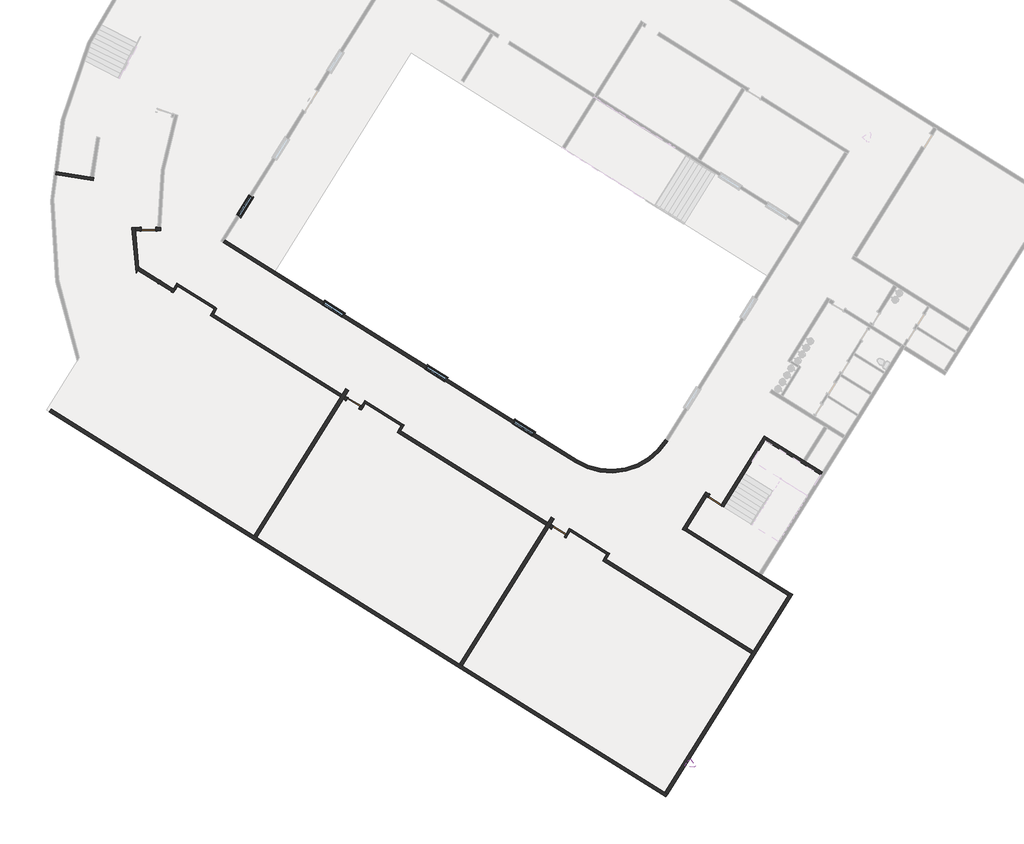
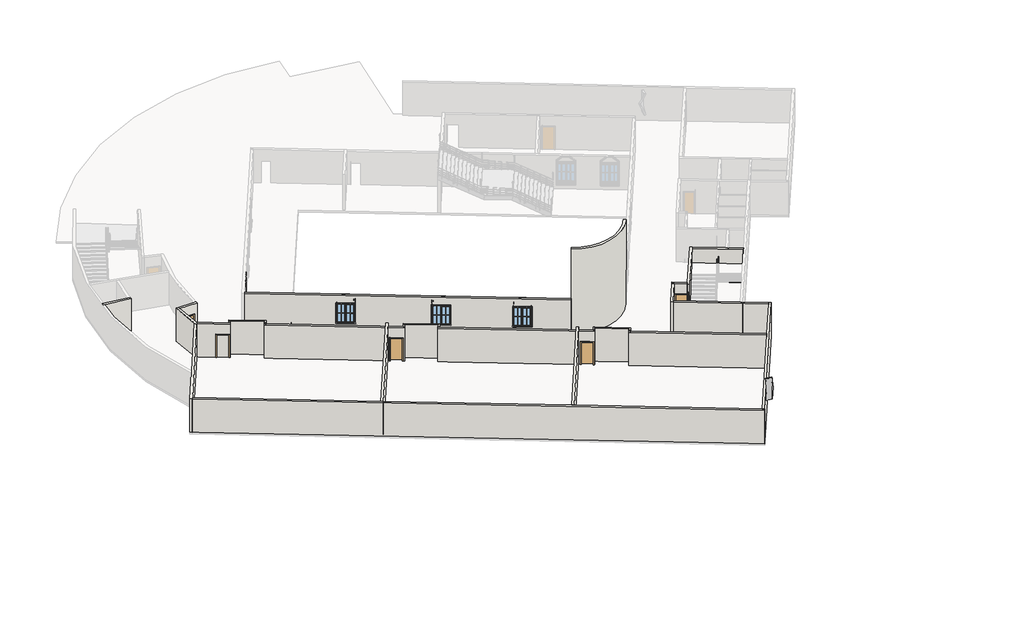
# One storey, part 1 of 4: 29 walls, 5 doors, 4 windows, 1 plate.
"""IFC4 building model written with IfcOpenShell, lengths in millimetres."""

from ifc_helpers import new_model, si_unit, frame, origin, place, context, project, spatial, polyline, circle_curve, outline, extrude, faceted_brep, transform, mapped, element, save
from ifc_brep_helpers import plane_surface, cylinder_surface, revolved_surface, advanced_brep
from components import m_single_flush_0915_x_2134mm_6a9e8738, m_single_flush_0915_x_2134mm_727434cd, plate_91021fb5, m_window_casement_double_1400_x_1800mm_877d247a, m_window_casement_double_1400_x_1800mm_eb8f2d9a

model = new_model("IFC4")

# Units and contexts
model_context = context("Model", 3, world=origin())
ifc_project = project(units=[si_unit("LENGTHUNIT", "METRE", prefix="MILLI")], contexts=[model_context])

# Site, building, storey
site = spatial("IfcSite", under=ifc_project)
building = spatial("IfcBuilding", under=site)
storey = spatial("IfcBuildingStorey", under=building, Name="\u200fمنفی", Elevation=-3600.0)

# Doors
placement = place(None, origin())
m_single_flush_0915_x_2134mm_shape = m_single_flush_0915_x_2134mm_6a9e8738(model_context)
element("IfcDoor", 1, ObjectType="M_Single-Flush : 0915 x 2134mm", at=placement, inside=storey, context=model_context, shape_type="MappedRepresentation", body=[
    mapped(m_single_flush_0915_x_2134mm_shape, transform((10135.2196896, -38759.2584102, -3600.0), x_axis=(0.8480480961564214, -0.5299192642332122, 0.0), y_axis=(0.5299192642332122, 0.8480480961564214, 0.0), z_axis=(0.0, 0.0, 1.0))),
])
element("IfcDoor", 2, ObjectType="M_Single-Flush : 0915 x 2134mm", at=placement, inside=storey, context=model_context, shape_type="MappedRepresentation", body=[
    mapped(m_single_flush_0915_x_2134mm_shape, transform((9053.2639428, -35261.0209227, -3600.0), x_axis=(-1.0, 0.0, 0.0), y_axis=(0.0, -1.0, 0.0), z_axis=(0.0, 0.0, 1.0))),
])
element("IfcDoor", 3, ObjectType="M_Single-Flush : 0915 x 2134mm", at=placement, inside=storey, context=model_context, shape_type="MappedRepresentation", body=[
    mapped(m_single_flush_0915_x_2134mm_shape, transform((43670.1080734, -51814.6724607, -3600.0), x_axis=(-0.8480480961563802, 0.5299192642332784, 0.0), y_axis=(-0.5299192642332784, -0.8480480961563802, 0.0), z_axis=(0.0, 0.0, 1.0))),
])
m_single_flush_0915_x_2134mm_2_shape = m_single_flush_0915_x_2134mm_727434cd(model_context)
element("IfcDoor", 4, ObjectType="M_Single-Flush : 0915 x 2134mm", at=placement, inside=storey, context=model_context, shape_type="MappedRepresentation", body=[
    mapped(m_single_flush_0915_x_2134mm_2_shape, transform((34111.4094095, -53741.2445417, -3600.0), x_axis=(-0.8480480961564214, 0.5299192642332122, 0.0), y_axis=(-0.5299192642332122, -0.8480480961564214, 0.0), z_axis=(0.0, 0.0, 1.0))),
])
element("IfcDoor", 5, ObjectType="M_Single-Flush : 0915 x 2134mm", at=placement, inside=storey, context=model_context, shape_type="MappedRepresentation", body=[
    mapped(m_single_flush_0915_x_2134mm_2_shape, transform((21561.1176268, -45898.9518492, -3600.0), x_axis=(-0.8480480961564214, 0.5299192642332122, 0.0), y_axis=(-0.5299192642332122, -0.8480480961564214, 0.0), z_axis=(0.0, 0.0, 1.0))),
])

# Plate
plate_shape = plate_91021fb5(model_context)
element("IfcPlate", 6, ObjectType="مدل پارامتریک کصینوس دار : مدل پارامتریک کصینوس دار", at=placement, inside=storey, context=model_context, shape_type="MappedRepresentation", body=[
    mapped(plate_shape, transform((41309.289151, -69854.3789551, -4050.0), x_axis=(0.0, 0.0, 1.0), y_axis=(0.5299192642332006, 0.8480480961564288, 0.0), z_axis=(-0.8480480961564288, 0.5299192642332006, 0.0))),
])

# Walls
element("IfcWall", 7, ObjectType="Generic - 200mm", at=placement, inside=storey, context=model_context, shape_type="AdvancedBrep", body=[
    advanced_brep(
    [(8398.8638738, -37792.1807172, -3600.0), (10575.3677311, -39152.2112719, -3600.0), (10575.3677311, -39152.2112719, -450.0), (8398.8638738, -37792.1807172, -450.0), (8445.8401379, -37585.6990642, -3600.0), (8445.8401379, -37585.6990642, -450.0), (10576.19362, -38916.8916639, -450.0), (10681.3515839, -38982.6016527, -450.0), (10681.3515839, -38982.6016527, -3600.0), (10576.19362, -38916.8916639, -3600.0), (8461.2110478, -37692.4043817, -3600.0), (8461.2110478, -37692.4043817, -450.0)],
    [
        (0, 1),
        (1, 2),
        (2, 3),
        (3, 0),
        (4, 5),
        (5, 6),
        (6, 7),
        (7, 8),
        (8, 9),
        (9, 4),
        (0, 10),
        (10, 4, circle_curve(frame((29284.4488792, -34638.3554793, -3600.0), z_axis=(0.0, 0.0, -1.0), x_axis=(0.021109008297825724, -0.9997771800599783, 0.0)), 21046.0078989)),
        (8, 1),
        (7, 2),
        (3, 11),
        (11, 10),
        (11, 5, circle_curve(frame((29284.4488792, -34638.3554793, -450.0), z_axis=(0.0, 0.0, -1.0), x_axis=(0.021109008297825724, -0.9997771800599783, 0.0)), 21046.0078989)),
    ],
    [
        plane_surface(frame((53742.4931599, -66126.0249624, -3600.0), z_axis=(-0.5299192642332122, -0.8480480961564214, 0.0), x_axis=(0.8480480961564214, -0.5299192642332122, 0.0))),
        plane_surface(frame((53848.4770127, -65956.4153432, -3600.0), z_axis=(0.5299192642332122, 0.8480480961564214, 0.0), x_axis=(-0.8480480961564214, 0.5299192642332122, 0.0))),
        plane_surface(frame((8300.4134234, -37730.662048, -3600.0), z_axis=(0.0, 0.0, -1.0), x_axis=(0.5299192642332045, 0.8480480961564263, 0.0))),
        plane_surface(frame((10681.3515839, -38982.6016527, -3600.0), z_axis=(0.8480480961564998, -0.5299192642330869, 0.0), x_axis=(0.5299192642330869, 0.8480480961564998, 0.0))),
        plane_surface(frame((5755.4658533, -42022.5018432, -3765.0), z_axis=(-0.8480480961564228, 0.5299192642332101, 0.0), x_axis=(-0.5299192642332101, -0.8480480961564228, 0.0))),
        cylinder_surface(frame((29284.4488792, -34638.3554793, -3765.0), z_axis=(0.0, 0.0, 1.0), x_axis=(0.021109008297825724, -0.9997771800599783, 0.0)), 21046.0078989),
        plane_surface(frame((44363.2360879, -73226.0361772, -450.0), z_axis=(0.0, 0.0, 1.0), x_axis=(-0.8480480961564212, 0.5299192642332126, 0.0))),
    ],
    [
        (0, [[1, 2, 3, 4]]),
        (1, [[5, 6, 7, 8, 9, 10]]),
        (2, [[-1, 11, 12, -10, -9, 13]]),
        (3, [[-2, -13, -8, 14]]),
        (4, [[-4, 15, 16, -11]]),
        (5, [[17, -5, -12, -16]]),
        (6, [[-3, -14, -7, -6, -17, -15]]),
    ],
),
])
element("IfcWall", 8, ObjectType="Generic - 200mm", at=placement, inside=storey, context=model_context, shape_type="Brep", body=[
    faceted_brep([(3379.4283717, -31948.7903107, -3600.0), (5670.7915732, -32311.7065889, -3600.0), (5670.7915732, -32311.7065889, -450.0), (3379.4283717, -31948.7903107, -450.0), (3410.7152647, -31751.2526425, -3600.0), (3410.7152647, -31751.2526425, -450.0), (5504.5407981, -32082.8820278, -450.0), (5702.0784662, -32114.1689208, -450.0), (5702.0784662, -32114.1689208, -3600.0), (5504.5407981, -32082.8820278, -3600.0)], [[[0, 1, 2, 3]], [[4, 5, 6, 7, 8, 9]], [[1, 0, 4, 9, 8]], [[0, 3, 5, 4]], [[2, 1, 8, 7]], [[3, 2, 7, 6, 5]]]),
])
element("IfcWall", 9, ObjectType="Generic - 200mm", at=placement, inside=storey, context=model_context, shape_type="AdvancedBrep", body=[
    advanced_brep(
    [(8461.2110478, -37692.4043817, -3600.0), (8398.8638738, -37792.1807172, -3600.0), (8298.5516912, -37952.7137665, -3600.0), (8252.7688162, -37648.5519238, -3600.0), (8044.8709061, -35161.0209227, -3600.0), (8244.9320284, -35161.0209227, -3600.0), (8250.8527294, -35361.0398638, -3600.0), (8445.8385172, -37585.6864525, -3600.0), (8244.9320284, -35161.0209227, -450.0), (8250.8518702, -35361.0209227, -450.0), (8445.8400555, -37585.6984813, -450.0), (8461.2110478, -37692.4043817, -450.0), (8298.5516912, -37952.7137665, -450.0), (8252.7703675, -37648.5632167, -450.0), (8044.8709061, -35161.0209227, -450.0), (8398.8638738, -37792.1807172, -450.0)],
    [
        (0, 1),
        (1, 2),
        (2, 3, circle_curve(frame((29284.4488792, -34638.3554793, -3600.0), z_axis=(0.0, 0.0, -1.0), x_axis=(1.0, 0.0, 0.0)), 21246.0078989)),
        (3, 4, circle_curve(frame((29284.4488792, -34638.3554793, -3600.0), z_axis=(0.0, 0.0, -1.0), x_axis=(1.0, 0.0, 0.0)), 21246.0078345)),
        (4, 5),
        (5, 6, circle_curve(frame((29284.4488792, -34638.3554793, -3600.0), z_axis=(0.0, 0.0, 1.0), x_axis=(1.0, 0.0, 0.0)), 21046.0078989)),
        (6, 7, circle_curve(frame((29284.4488792, -34638.3554793, -3600.0), z_axis=(0.0, 0.0, 1.0), x_axis=(1.0, 0.0, 0.0)), 21046.0076905)),
        (7, 0, circle_curve(frame((29284.4488792, -34638.3554793, -3600.0), z_axis=(0.0, 0.0, 1.0), x_axis=(1.0, 0.0, 0.0)), 21046.0077374)),
        (8, 9, circle_curve(frame((29284.4488792, -34638.3554793, -450.0), z_axis=(0.0, 0.0, 1.0), x_axis=(1.0, 0.0, 0.0)), 21046.0078989)),
        (9, 10, circle_curve(frame((29284.4488792, -34638.3554793, -450.0), z_axis=(0.0, 0.0, 1.0), x_axis=(1.0, 0.0, 0.0)), 21046.0078989)),
        (10, 11, circle_curve(frame((29284.4488792, -34638.3554793, -450.0), z_axis=(0.0, 0.0, 1.0), x_axis=(1.0, 0.0, 0.0)), 21046.0078989)),
        (11, 0),
        (5, 8),
        (12, 13, circle_curve(frame((29284.4488792, -34638.3554793, -450.0), z_axis=(0.0, 0.0, -1.0), x_axis=(1.0, 0.0, 0.0)), 21246.0078989)),
        (13, 14, circle_curve(frame((29284.4488792, -34638.3554793, -450.0), z_axis=(0.0, 0.0, -1.0), x_axis=(1.0, 0.0, 0.0)), 21246.0078989)),
        (14, 4),
        (2, 12),
        (14, 8),
        (11, 15),
        (15, 12),
    ],
    [
        plane_surface(frame((50330.456778, -34638.3554793, -3600.0), z_axis=(0.0, 0.0, -1.0), x_axis=(0.0, 1.0, 0.0))),
        revolved_surface(polyline([(50330.4567781, -34638.3554793, -3600.0), (50330.4567781, -34638.3554793, -450.0)]), (29284.4488792, -34638.3554793, -3600.0), (0.0, 0.0, -1.0)),
        cylinder_surface(frame((29284.4488792, -34638.3554793, -3600.0), z_axis=(0.0, 0.0, 1.0), x_axis=(1.0, 0.0, 0.0)), 21246.0078989),
        plane_surface(frame((8250.8518702, -35161.0209227, -3600.0), z_axis=(0.0, 1.0, 0.0), x_axis=(-1.0, 0.0, 0.0))),
        plane_surface(frame((4583.4451713, -43898.1270095, -3600.0), z_axis=(0.8480480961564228, -0.5299192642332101, 0.0), x_axis=(0.5299192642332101, 0.8480480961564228, 0.0))),
        plane_surface(frame((44363.2360879, -73226.0361772, -450.0), z_axis=(0.0, 0.0, 1.0), x_axis=(-0.8480480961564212, 0.5299192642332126, 0.0))),
    ],
    [
        (0, [[1, 2, 3, 4, 5, 6, 7, 8]]),
        (1, [[9, 10, 11, 12, -8, -7, -6, 13]]),
        (2, [[14, 15, 16, -4, -3, 17]]),
        (3, [[18, -13, -5, -16]]),
        (4, [[19, 20, -17, -2, -1, -12]]),
        (5, [[-11, -10, -9, -18, -15, -14, -20, -19]]),
    ],
),
])
element("IfcWall", 10, ObjectType="Generic - 200mm", at=placement, inside=storey, context=model_context, shape_type="AdvancedBrep", body=[
    advanced_brep(
    [(8250.8518702, -35361.0209227, -3600.0), (8595.7639428, -35361.0209227, -3600.0), (8595.7639428, -35361.0209227, -1466.0), (9510.7639428, -35361.0209227, -1466.0), (9510.7639428, -35361.0209227, -3600.0), (9814.2693312, -35361.0209227, -3600.0), (9814.2693312, -35361.0209227, -450.0), (8250.8518702, -35361.0209227, -450.0), (8595.7639428, -35161.0209227, -1466.0), (8595.7639428, -35161.0209227, -3600.0), (8244.9320284, -35161.0209227, -3600.0), (8244.9320284, -35161.0209227, -450.0), (9607.803018, -35161.0209227, -450.0), (9807.874288, -35161.0209227, -450.0), (9807.874288, -35161.0209227, -3600.0), (9607.803018, -35161.0209227, -3600.0), (9510.7639428, -35161.0209227, -3600.0), (9510.7639428, -35161.0209227, -1466.0)],
    [
        (0, 1),
        (1, 2),
        (2, 3),
        (3, 4),
        (4, 5),
        (5, 6),
        (6, 7),
        (7, 0),
        (8, 9),
        (9, 10),
        (10, 11),
        (11, 12),
        (12, 13),
        (13, 14),
        (14, 15),
        (15, 16),
        (16, 17),
        (17, 8),
        (9, 1),
        (0, 10, circle_curve(frame((29284.4488792, -34638.3554793, -3600.0), z_axis=(0.0, 0.0, -1.0), x_axis=(1.0, 0.0, 0.0)), 21046.0078989)),
        (14, 5, circle_curve(frame((29284.4488792, -34638.3554793, -3600.0), z_axis=(0.0, 0.0, 1.0), x_axis=(1.0, 0.0, 0.0)), 19483.5863478)),
        (4, 16),
        (13, 6, circle_curve(frame((29284.4488792, -34638.3554793, -450.0), z_axis=(0.0, 0.0, 1.0), x_axis=(1.0, 0.0, 0.0)), 19483.5863478)),
        (7, 11, circle_curve(frame((29284.4488792, -34638.3554793, -450.0), z_axis=(0.0, 0.0, -1.0), x_axis=(1.0, 0.0, 0.0)), 21046.0078989)),
        (8, 2),
        (17, 3),
    ],
    [
        plane_surface(frame((8250.8518702, -35361.0209227, -3600.0), z_axis=(0.0, -1.0, 0.0), x_axis=(1.0, 0.0, 0.0))),
        plane_surface(frame((8250.8518702, -35161.0209227, -3600.0), z_axis=(0.0, 1.0, 0.0), x_axis=(-1.0, 0.0, 0.0))),
        plane_surface(frame((8147.6104731, -35361.0209227, -3600.0), z_axis=(0.0, 0.0, -1.0), x_axis=(0.0, 1.0, 0.0))),
        revolved_surface(polyline([(48768.035227, -34638.3554793, -3600.0), (48768.035227, -34638.3554793, -450.0)]), (29284.4488792, -34638.3554793, -3600.0), (0.0, 0.0, -1.0)),
        cylinder_surface(frame((29284.4488792, -34638.3554793, -3600.0), z_axis=(0.0, 0.0, -1.0), x_axis=(1.0, 0.0, 0.0)), 21046.0078989),
        plane_surface(frame((8595.7639428, -35361.0209227, -3600.0), z_axis=(1.0, 0.0, 0.0), x_axis=(0.0, 1.0, 0.0))),
        plane_surface(frame((8595.7639428, -35361.0209227, -1466.0), z_axis=(0.0, 0.0, -1.0), x_axis=(0.0, 1.0, 0.0))),
        plane_surface(frame((9510.7639428, -35361.0209227, -1466.0), z_axis=(-1.0, 0.0, 0.0), x_axis=(0.0, 1.0, 0.0))),
        plane_surface(frame((44363.2360879, -73226.0361772, -450.0), z_axis=(0.0, 0.0, 1.0), x_axis=(-0.8480480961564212, 0.5299192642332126, 0.0))),
    ],
    [
        (0, [[1, 2, 3, 4, 5, 6, 7, 8]]),
        (1, [[9, 10, 11, 12, 13, 14, 15, 16, 17, 18]]),
        (2, [[-10, 19, -1, 20]]),
        (2, [[-16, -15, 21, -5, 22]]),
        (3, [[-6, -21, -14, 23]]),
        (4, [[-8, 24, -11, -20]]),
        (5, [[-2, -19, -9, 25]]),
        (6, [[-3, -25, -18, 26]]),
        (7, [[-4, -26, -17, -22]]),
        (8, [[-7, -23, -13, -12, -24]]),
    ],
),
])
element("IfcWall", 11, ObjectType="Generic - 200mm", at=placement, inside=storey, context=model_context, shape_type="AdvancedBrep", body=[
    advanced_brep(
    [(2996.7287324, -46437.4041144, -3600.0), (3102.7125853, -46267.7944951, -3600.0), (8298.5516912, -37952.7137665, -3600.0), (8298.5516912, -37952.7137665, -450.0), (3102.7125853, -46267.7944951, -450.0), (2996.7287324, -46437.4041144, -450.0), (2827.1191132, -46331.4202615, -3600.0), (2827.1191132, -46331.4202615, -450.0), (4699.4334687, -43335.0909491, -450.0), (4833.0156697, -43121.3147404, -450.0), (8252.7703675, -37648.5632167, -450.0), (8252.7703675, -37648.5632167, -3600.0), (4833.0156697, -43121.3147404, -3600.0), (4699.4334687, -43335.0909491, -3600.0)],
    [
        (0, 1),
        (1, 2),
        (2, 3),
        (3, 4),
        (4, 5),
        (5, 0),
        (6, 7),
        (7, 8),
        (8, 9),
        (9, 10),
        (10, 11),
        (11, 12),
        (12, 13),
        (13, 6),
        (0, 6),
        (11, 2, circle_curve(frame((29284.4488792, -34638.3554793, -3600.0), z_axis=(0.0, 0.0, 1.0), x_axis=(1.0, 0.0, 0.0)), 21246.0078989)),
        (10, 3, circle_curve(frame((29284.4488792, -34638.3554793, -450.0), z_axis=(0.0, 0.0, 1.0), x_axis=(1.0, 0.0, 0.0)), 21246.0078989)),
        (5, 7),
    ],
    [
        plane_surface(frame((4583.4451713, -43898.1270095, -3600.0), z_axis=(0.8480480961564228, -0.5299192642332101, 0.0), x_axis=(0.5299192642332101, 0.8480480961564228, 0.0))),
        plane_surface(frame((4413.835552, -43792.1431566, -3600.0), z_axis=(-0.8480480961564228, 0.5299192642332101, 0.0), x_axis=(-0.5299192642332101, -0.8480480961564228, 0.0))),
        plane_surface(frame((3049.7206588, -46352.5993048, -3600.0), z_axis=(0.0, 0.0, -1.0), x_axis=(-0.8480480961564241, 0.5299192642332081, 0.0))),
        revolved_surface(polyline([(50530.4567781, -34638.3554793, -450.0), (50530.4567781, -34638.3554793, -3600.0)]), (29284.4488792, -34638.3554793, -3600.0), (0.0, 0.0, 1.0)),
        plane_surface(frame((48340.3580185, -74771.2483596, -3600.0), z_axis=(-0.5299192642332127, -0.8480480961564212, 0.0), x_axis=(0.8480480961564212, -0.5299192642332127, 0.0))),
        plane_surface(frame((44363.2360879, -73226.0361772, -450.0), z_axis=(0.0, 0.0, 1.0), x_axis=(-0.8480480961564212, 0.5299192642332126, 0.0))),
    ],
    [
        (0, [[1, 2, 3, 4, 5, 6]]),
        (1, [[7, 8, 9, 10, 11, 12, 13, 14]]),
        (2, [[-2, -1, 15, -14, -13, -12, 16]]),
        (3, [[-3, -16, -11, 17]]),
        (4, [[-6, 18, -7, -15]]),
        (5, [[-5, -4, -17, -10, -9, -8, -18]]),
    ],
),
])
element("IfcWall", 12, ObjectType="Generic - 200mm", at=placement, inside=storey, context=model_context, shape_type="Brep", body=[
    faceted_brep([(40756.0480546, -69796.2098271, -3600.0), (40586.4384354, -69690.2259742, -3600.0), (28204.9362315, -61953.4047164, -3600.0), (28035.3266123, -61847.4208636, -3600.0), (15653.8244084, -54110.5996058, -3600.0), (15484.2147892, -54004.6157529, -3600.0), (3102.7125853, -46267.7944951, -3600.0), (3102.7125853, -46267.7944951, -450.0), (15484.2147892, -54004.6157529, -450.0), (15653.8244084, -54110.5996058, -450.0), (28035.3266123, -61847.4208636, -450.0), (28204.9362315, -61953.4047164, -450.0), (40586.4384354, -69690.2259742, -450.0), (40756.0480546, -69796.2098271, -450.0), (40650.0642018, -69965.8194463, -3600.0), (40650.0642018, -69965.8194463, -450.0), (2996.7287324, -46437.4041144, -450.0), (2996.7287324, -46437.4041144, -3600.0)], [[[0, 1, 2, 3, 4, 5, 6, 7, 8, 9, 10, 11, 12, 13]], [[14, 15, 16, 17]], [[6, 5, 4, 3, 2, 1, 0, 14, 17]], [[0, 13, 15, 14]], [[7, 6, 17, 16]], [[13, 12, 11, 10, 9, 8, 7, 16, 15]]]),
])
element("IfcWall", 13, ObjectType="Generic - 200mm", at=placement, inside=storey, context=model_context, shape_type="SweptSolid", body=[
    extrude(outline(polyline([(28035.3266123, -61847.4208636), (33649.4294593, -52862.9782279), (33819.0390785, -52968.9620808), (28204.9362315, -61953.4047164), (28035.3266123, -61847.4208636)])), frame((0.0, 0.0, -3600.0), z_axis=(0.0, 0.0, 1.0), x_axis=(1.0, 0.0, 0.0)), (0.0, 0.0, 1.0), 3150.0),
])
element("IfcWall", 14, ObjectType="Generic - 200mm", at=placement, inside=storey, context=model_context, shape_type="Brep", body=[
    faceted_brep([(40756.0480546, -69796.2098271, -3600.0), (48383.4012778, -57589.8930988, -3600.0), (48383.4012778, -57589.8930988, -450.0), (40756.0480546, -69796.2098271, -450.0), (40586.4384354, -69690.2259742, -3600.0), (40586.4384354, -69690.2259742, -450.0), (45882.5897239, -61214.6121963, -450.0), (45988.5735767, -61045.002577, -450.0), (48107.8078058, -57653.5188652, -450.0), (48213.7916586, -57483.9092459, -450.0), (48213.7916586, -57483.9092459, -3600.0), (48107.8078058, -57653.5188652, -3600.0), (45988.5735767, -61045.002577, -3600.0), (45882.5897239, -61214.6121963, -3600.0)], [[[0, 1, 2, 3]], [[4, 5, 6, 7, 8, 9, 10, 11, 12, 13]], [[1, 0, 4, 13, 12, 11, 10]], [[2, 1, 10, 9]], [[0, 3, 5, 4]], [[3, 2, 9, 8, 7, 6, 5]]]),
])
element("IfcWall", 15, ObjectType="Generic - 200mm", at=placement, inside=storey, context=model_context, shape_type="Brep", body=[
    faceted_brep([(41818.4737323, -53723.5067587, -3600.0), (48107.8078058, -57653.5188652, -3600.0), (48107.8078058, -57653.5188652, -450.0), (41818.4737323, -53723.5067587, -450.0), (41924.4575852, -53553.8971395, -3600.0), (41924.4575852, -53553.8971395, -450.0), (46334.3076852, -56309.4773135, -450.0), (46503.9173044, -56415.4611664, -450.0), (48213.7916586, -57483.9092459, -450.0), (48213.7916586, -57483.9092459, -3600.0), (46503.9173044, -56415.4611664, -3600.0), (46334.3076852, -56309.4773135, -3600.0)], [[[0, 1, 2, 3]], [[4, 5, 6, 7, 8, 9, 10, 11]], [[1, 0, 4, 11, 10, 9]], [[2, 1, 9, 8]], [[0, 3, 5, 4]], [[3, 2, 8, 7, 6, 5]]]),
])
element("IfcWall", 16, ObjectType="Generic - 200mm", at=placement, inside=storey, context=model_context, shape_type="Brep", body=[
    faceted_brep([(42973.6622737, -51497.4026655, -3600.0), (41648.8641131, -53617.5229059, -3600.0), (41648.8641131, -53617.5229059, -450.0), (42973.6622737, -51497.4026655, -450.0), (43143.2718929, -51603.3865184, -3600.0), (43143.2718929, -51603.3865184, -450.0), (41924.4575852, -53553.8971395, -450.0), (41818.4737323, -53723.5067587, -450.0), (41818.4737323, -53723.5067587, -3600.0), (41924.4575852, -53553.8971395, -3600.0)], [[[0, 1, 2, 3]], [[4, 5, 6, 7, 8, 9]], [[1, 0, 4, 9, 8]], [[0, 3, 5, 4]], [[2, 1, 8, 7]], [[3, 2, 7, 6, 5]]]),
])
element("IfcWall", 17, ObjectType="Generic - 200mm", at=placement, inside=storey, context=model_context, shape_type="Brep", body=[
    faceted_brep([(42973.6622737, -51497.4026655, -450.0), (42973.6622737, -51497.4026655, -3600.0), (43143.2718929, -51603.3865184, -3600.0), (43229.134143, -51657.0392069, -3600.0), (43229.134143, -51657.0392069, -1466.0), (44005.0981509, -52141.9153337, -1466.0), (44005.0981509, -52141.9153337, -450.0), (43143.2718929, -51603.3865184, -450.0), (43079.6461265, -51327.7930463, -3600.0), (43079.6461265, -51327.7930463, -450.0), (44111.0820038, -51972.3057144, -450.0), (44111.0820038, -51972.3057144, -1466.0), (43335.1179958, -51487.4295877, -1466.0), (43335.1179958, -51487.4295877, -3600.0)], [[[0, 1, 2, 3, 4, 5, 6, 7]], [[8, 9, 10, 11, 12, 13]], [[1, 8, 13, 3, 2]], [[1, 0, 9, 8]], [[10, 6, 5, 11]], [[12, 4, 3, 13]], [[4, 12, 11, 5]], [[0, 7, 6, 10, 9]]]),
])
element("IfcWall", 18, ObjectType="Generic - 200mm", at=placement, inside=storey, context=model_context, shape_type="Brep", body=[
    faceted_brep([(44005.0981509, -52141.9153337, -450.0), (44111.0820038, -51972.3057144, -450.0), (46654.6944721, -47901.6748529, -450.0), (46654.6944721, -47901.6748529, -3600.0), (44111.0820038, -51972.3057144, -3600.0), (44005.0981509, -52141.9153337, -3600.0), (44005.0981509, -52141.9153337, -1466.0), (44174.7077702, -52247.8991865, -3600.0), (46718.3202385, -48177.268325, -3600.0), (46824.3040913, -48007.6587057, -3600.0), (46824.3040913, -48007.6587057, -450.0), (46718.3202385, -48177.268325, -450.0), (44174.7077702, -52247.8991865, -450.0)], [[[0, 1, 2, 3, 4, 5, 6]], [[7, 8, 9, 10, 11, 12]], [[9, 8, 7, 5, 4, 3]], [[5, 7, 12, 0, 6]], [[2, 1, 0, 12, 11, 10]], [[3, 2, 10, 9]]]),
])
element("IfcWall", 19, ObjectType="Generic - 200mm", at=placement, inside=storey, context=model_context, shape_type="Brep", body=[
    faceted_brep([(46718.3202385, -48177.268325, -3600.0), (50096.7344612, -50288.3358308, -3600.0), (50096.7344612, -50288.3358308, -450.0), (46718.3202385, -48177.268325, -450.0), (46824.3040913, -48007.6587057, -3600.0), (46824.3040913, -48007.6587057, -450.0), (49029.2291413, -49385.4487928, -450.0), (49198.8387606, -49491.4326456, -450.0), (50202.7183141, -50118.7262116, -450.0), (50202.7183141, -50118.7262116, -3600.0), (49198.8387606, -49491.4326456, -3600.0), (49029.2291413, -49385.4487928, -3600.0)], [[[0, 1, 2, 3]], [[4, 5, 6, 7, 8, 9, 10, 11]], [[1, 0, 4, 11, 10, 9]], [[2, 1, 9, 8]], [[3, 2, 8, 7, 6, 5]], [[0, 3, 5, 4]]]),
])
element("IfcWall", 20, ObjectType="Generic - 200mm", at=placement, inside=storey, context=model_context, shape_type="SweptSolid", body=[
    extrude(outline(polyline([(200.0000001, 0.0), (25546.8423947, 0.0), (25546.8423947, -3150.0), (200.0000001, -3150.0), (200.0000001, 0.0)]), holes=[polyline([(7346.8423946, -2400.0), (8746.8423946, -2400.0), (8746.8423946, -600.0), (7346.8423946, -600.0), (7346.8423946, -2400.0)]), polyline([(14746.8423946, -2400.0), (16146.8423947, -2400.0), (16146.8423947, -600.0), (14746.8423946, -600.0), (14746.8423946, -2400.0)]), polyline([(21046.8423947, -2400.0), (22446.8423946, -2400.0), (22446.8423946, -600.0), (21046.8423947, -600.0), (21046.8423947, -2400.0)])]), frame((13454.385545, -35998.6719733, -3600.0), z_axis=(0.5299192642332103, 0.8480480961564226, 0.0), x_axis=(0.8480480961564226, -0.5299192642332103, 0.0)), (0.0, 0.0, 1.0), 200.0),
])
element("IfcWall", 21, ObjectType="Generic - 200mm", at=placement, inside=storey, context=model_context, shape_type="AdvancedBrep", body=[
    advanced_brep(
    [(10470.2097672, -39086.5012832, -1466.0), (10470.2097672, -39086.5012832, -3600.0), (10575.3677311, -39152.2112719, -3600.0), (10575.3677311, -39152.2112719, -450.0), (8398.8638738, -37792.1807172, -450.0), (8398.8638738, -37792.1807172, -3600.0), (9694.2457592, -38601.6251564, -3600.0), (9694.2457592, -38601.6251564, -1466.0), (10681.3515839, -38982.6016527, -3600.0), (10576.19362, -38916.8916639, -3600.0), (10576.19362, -38916.8916639, -1466.0), (9800.229612, -38432.0155372, -1466.0), (9800.229612, -38432.0155372, -3600.0), (8445.8401379, -37585.6990642, -3600.0), (8445.8401379, -37585.6990642, -450.0), (10576.19362, -38916.8916639, -450.0), (10681.3515839, -38982.6016527, -450.0), (8461.2110478, -37692.4043817, -3600.0), (8461.2110478, -37692.4043817, -450.0)],
    [
        (0, 1),
        (1, 2),
        (2, 3),
        (3, 4),
        (4, 5),
        (5, 6),
        (6, 7),
        (7, 0),
        (8, 9),
        (9, 10),
        (10, 11),
        (11, 12),
        (12, 13),
        (13, 14),
        (14, 15),
        (15, 16),
        (16, 8),
        (5, 17),
        (17, 13, circle_curve(frame((29284.4488792, -34638.3554793, -3600.0), z_axis=(0.0, 0.0, -1.0), x_axis=(0.021109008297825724, -0.9997771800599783, 0.0)), 21046.0078989)),
        (12, 6),
        (1, 9),
        (8, 2),
        (0, 10),
        (7, 11),
        (4, 18),
        (18, 17),
        (18, 14, circle_curve(frame((29284.4488792, -34638.3554793, -450.0), z_axis=(0.0, 0.0, -1.0), x_axis=(0.021109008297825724, -0.9997771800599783, 0.0)), 21046.0078989)),
        (16, 3),
    ],
    [
        plane_surface(frame((53742.4931599, -66126.0249624, -3600.0), z_axis=(-0.5299192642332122, -0.8480480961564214, 0.0), x_axis=(0.8480480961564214, -0.5299192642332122, 0.0))),
        plane_surface(frame((53848.4770127, -65956.4153432, -3600.0), z_axis=(0.5299192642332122, 0.8480480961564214, 0.0), x_axis=(-0.8480480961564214, 0.5299192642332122, 0.0))),
        plane_surface(frame((8300.4134234, -37730.662048, -3600.0), z_axis=(0.0, 0.0, -1.0), x_axis=(0.5299192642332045, 0.8480480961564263, 0.0))),
        plane_surface(frame((10576.19362, -38916.8916639, -3600.0), z_axis=(-0.8480480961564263, 0.5299192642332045, 0.0), x_axis=(-0.5299192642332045, -0.8480480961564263, 0.0))),
        plane_surface(frame((10576.19362, -38916.8916639, -1466.0), z_axis=(0.0, 0.0, -1.0), x_axis=(-0.5299192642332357, -0.8480480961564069, 0.0))),
        plane_surface(frame((9800.229612, -38432.0155372, -1466.0), z_axis=(0.8480480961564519, -0.5299192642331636, 0.0), x_axis=(-0.5299192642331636, -0.8480480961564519, 0.0))),
        plane_surface(frame((5755.4658533, -42022.5018432, -3765.0), z_axis=(-0.8480480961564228, 0.5299192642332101, 0.0), x_axis=(-0.5299192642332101, -0.8480480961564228, 0.0))),
        cylinder_surface(frame((29284.4488792, -34638.3554793, -3765.0), z_axis=(0.0, 0.0, 1.0), x_axis=(0.021109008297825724, -0.9997771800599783, 0.0)), 21046.0078989),
        plane_surface(frame((10681.3515839, -38982.6016527, -3600.0), z_axis=(0.8480480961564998, -0.5299192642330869, 0.0), x_axis=(0.5299192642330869, 0.8480480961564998, 0.0))),
        plane_surface(frame((44363.2360879, -73226.0361772, -450.0), z_axis=(0.0, 0.0, 1.0), x_axis=(-0.8480480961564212, 0.5299192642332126, 0.0))),
    ],
    [
        (0, [[1, 2, 3, 4, 5, 6, 7, 8]]),
        (1, [[9, 10, 11, 12, 13, 14, 15, 16, 17]]),
        (2, [[-6, 18, 19, -13, 20]]),
        (2, [[-2, 21, -9, 22]]),
        (3, [[-10, -21, -1, 23]]),
        (4, [[-11, -23, -8, 24]]),
        (5, [[-12, -24, -7, -20]]),
        (6, [[-5, 25, 26, -18]]),
        (7, [[27, -14, -19, -26]]),
        (8, [[-3, -22, -17, 28]]),
        (9, [[-4, -28, -16, -15, -27, -25]]),
    ],
),
])
element("IfcWall", 22, ObjectType="Generic - 200mm", at=placement, inside=storey, context=model_context, shape_type="SweptSolid", body=[
    extrude(outline(polyline([(15484.2147892, -54004.6157529), (21098.3176362, -45020.1731173), (21267.9272554, -45126.1569701), (15653.8244084, -54110.5996058), (15484.2147892, -54004.6157529)])), frame((0.0, 0.0, -3600.0), z_axis=(0.0, 0.0, 1.0), x_axis=(1.0, 0.0, 0.0)), (0.0, 0.0, 1.0), 3150.0),
])
element("IfcWall", 23, ObjectType="Generic - 200mm", at=placement, inside=storey, context=model_context, shape_type="Brep", body=[
    faceted_brep([(12812.5186088, -40550.138291, -3600.0), (21120.1436964, -45741.3185954, -3600.0), (21120.1436964, -45741.3185954, -1466.0), (21896.1077044, -46226.1947222, -1466.0), (21896.1077044, -46226.1947222, -3600.0), (22052.1485541, -46323.6998668, -3600.0), (22052.1485541, -46323.6998668, -450.0), (12812.5186088, -40550.138291, -450.0), (21226.1275492, -45571.7089762, -1466.0), (21226.1275492, -45571.7089762, -3600.0), (13023.6604255, -40446.2386605, -3600.0), (12918.5024616, -40380.5286717, -3600.0), (12918.5024616, -40380.5286717, -450.0), (13023.6604255, -40446.2386605, -450.0), (22052.974443, -46088.3802588, -450.0), (22158.1324069, -46154.0902475, -450.0), (22158.1324069, -46154.0902475, -3600.0), (22052.974443, -46088.3802588, -3600.0), (22002.0915572, -46056.5851029, -3600.0), (22002.0915572, -46056.5851029, -1466.0)], [[[0, 1, 2, 3, 4, 5, 6, 7]], [[8, 9, 10, 11, 12, 13, 14, 15, 16, 17, 18, 19]], [[11, 10, 9, 1, 0]], [[18, 17, 16, 5, 4]], [[6, 5, 16, 15]], [[2, 1, 9, 8]], [[3, 2, 8, 19]], [[4, 3, 19, 18]], [[0, 7, 12, 11]], [[7, 6, 15, 14, 13, 12]]]),
])
element("IfcWall", 24, ObjectType="Generic - 200mm", at=placement, inside=storey, context=model_context, shape_type="Brep", body=[
    faceted_brep([(24237.5965055, -47689.3193118, -3600.0), (33670.4354791, -53583.6112879, -3600.0), (33670.4354791, -53583.6112879, -1466.0), (34446.3994871, -54068.4874147, -1466.0), (34446.3994871, -54068.4874147, -3600.0), (34551.557451, -54134.1974035, -3600.0), (34551.557451, -54134.1974035, -450.0), (24237.5965055, -47689.3193118, -450.0), (33776.4193319, -53414.0016687, -1466.0), (33776.4193319, -53414.0016687, -3600.0), (24448.7383223, -47585.4196814, -3600.0), (24343.5803584, -47519.7096926, -3600.0), (24343.5803584, -47519.7096926, -450.0), (24448.7383223, -47585.4196814, -450.0), (34552.3833399, -53898.8777955, -450.0), (34657.5413038, -53964.5877842, -450.0), (34657.5413038, -53964.5877842, -3600.0), (34552.3833399, -53898.8777955, -3600.0), (34552.3833399, -53898.8777955, -1466.0)], [[[0, 1, 2, 3, 4, 5, 6, 7]], [[8, 9, 10, 11, 12, 13, 14, 15, 16, 17, 18]], [[11, 10, 9, 1, 0]], [[17, 16, 5, 4]], [[0, 7, 12, 11]], [[4, 3, 18, 17]], [[3, 2, 8, 18]], [[2, 1, 9, 8]], [[6, 5, 16, 15]], [[7, 6, 15, 14, 13, 12]]]),
])
element("IfcWall", 25, ObjectType="Generic - 200mm", at=placement, inside=storey, context=model_context, shape_type="Brep", body=[
    faceted_brep([(36788.7083286, -55532.1244225, -3600.0), (45882.5897239, -61214.6121963, -3600.0), (45882.5897239, -61214.6121963, -450.0), (36788.7083286, -55532.1244225, -450.0), (36894.6921815, -55362.5148033, -3600.0), (36894.6921815, -55362.5148033, -450.0), (36999.8501454, -55428.224792, -450.0), (45988.5735767, -61045.002577, -450.0), (45988.5735767, -61045.002577, -3600.0), (36999.8501454, -55428.224792, -3600.0)], [[[0, 1, 2, 3]], [[4, 5, 6, 7, 8, 9]], [[1, 0, 4, 9, 8]], [[0, 3, 5, 4]], [[2, 1, 8, 7]], [[3, 2, 7, 6, 5]]]),
])
element("IfcWall", 26, ObjectType="Generic - 200mm", at=placement, inside=storey, context=model_context, shape_type="AdvancedBrep", body=[
    advanced_brep(
    [(35119.3366006, -49536.4358986, 4400.0), (40771.5144819, -48228.0829419, 4400.0), (40601.7823405, -48122.2954181, 4400.0), (35225.3204534, -49366.8262793, 4400.0), (35119.3366006, -49536.4358986, -3600.0), (35225.3204534, -49366.8262793, -3600.0), (40601.7823405, -48122.2954181, -3600.0), (40771.5144819, -48228.0829419, -3600.0), (35119.3366006, -49536.4358986, 3600.0), (35119.3366006, -49536.4358986, 3300.0), (35119.3366006, -49536.4358986, 0.0), (35119.3366006, -49536.4358986, -450.0), (35225.3204534, -49366.8262793, -450.0), (35225.3204534, -49366.8262793, 0.0), (35225.3204534, -49366.8262793, 3300.0), (35225.3204534, -49366.8262793, 3600.0)],
    [
        (0, 1, circle_curve(frame((37292.0055839, -46059.4387043, 4400.0), z_axis=(0.0, 0.0, 1.0), x_axis=(1.0, 0.0, 0.0)), 4100.0)),
        (1, 2),
        (2, 3, circle_curve(frame((37292.0055839, -46059.4387043, 4400.0), z_axis=(0.0, 0.0, -1.0), x_axis=(1.0, 0.0, 0.0)), 3900.0)),
        (3, 0),
        (4, 5),
        (5, 6, circle_curve(frame((37292.0055839, -46059.4387043, -3600.0), z_axis=(0.0, 0.0, 1.0), x_axis=(1.0, 0.0, 0.0)), 3900.0)),
        (6, 7),
        (7, 4, circle_curve(frame((37292.0055839, -46059.4387043, -3600.0), z_axis=(0.0, 0.0, -1.0), x_axis=(1.0, 0.0, 0.0)), 4100.0)),
        (7, 1),
        (0, 8),
        (8, 9),
        (9, 10),
        (10, 11),
        (11, 4),
        (5, 12),
        (12, 13),
        (13, 14),
        (14, 15),
        (15, 3),
        (2, 6),
    ],
    [
        plane_surface(frame((41392.0055839, -46059.4387043, 4400.0), z_axis=(0.0, 0.0, 1.0), x_axis=(0.0, 1.0, 0.0))),
        plane_surface(frame((41392.0055839, -46059.4387043, -3600.0), z_axis=(0.0, 0.0, -1.0), x_axis=(0.0, -1.0, 0.0))),
        cylinder_surface(frame((37292.0055839, -46059.4387043, -3600.0), z_axis=(0.0, 0.0, 1.0), x_axis=(1.0, 0.0, 0.0)), 4100.0),
        revolved_surface(polyline([(41192.0055839, -46059.4387043, -3600.0), (41192.0055839, -46059.4387043, 4400.0)]), (37292.0055839, -46059.4387043, -3600.0), (0.0, 0.0, -1.0)),
        plane_surface(frame((40771.5144819, -48228.0829419, 4400.0), z_axis=(0.5289376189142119, 0.8486607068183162, 0.0), x_axis=(0.0, 0.0, -1.0))),
        plane_surface(frame((35225.3204534, -49366.8262793, 4400.0), z_axis=(-0.8480480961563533, 0.5299192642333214, 0.0), x_axis=(0.0, 0.0, -1.0))),
    ],
    [
        (0, [[1, 2, 3, 4]]),
        (1, [[5, 6, 7, 8]]),
        (2, [[9, -1, 10, 11, 12, 13, 14, -8]]),
        (3, [[15, 16, 17, 18, 19, -3, 20, -6]]),
        (4, [[-2, -9, -7, -20]]),
        (5, [[-4, -19, -18, -17, -16, -15, -5, -14, -13, -12, -11, -10]]),
    ],
),
])
element("IfcWall", 27, ObjectType="Interior - Blockwork 100", at=placement, inside=storey, context=model_context, shape_type="Brep", body=[
    faceted_brep([(37106.6598872, -55023.2955648, -3600.0), (37106.1092809, -55024.1767191, -3600.0), (37040.3992921, -55129.334683, -3600.0), (36894.6921815, -55362.5148033, -3600.0), (36894.6921815, -55362.5148033, -450.0), (37040.3992921, -55129.334683, -450.0), (37106.1092809, -55024.1767191, -450.0), (37106.6598872, -55023.2955648, -450.0), (37211.8178511, -55089.0055536, -3600.0), (37211.8178511, -55089.0055536, -450.0), (36999.8501454, -55428.224792, -450.0), (36999.8501454, -55428.224792, -3600.0)], [[[0, 1, 2, 3, 4, 5, 6, 7]], [[8, 9, 10, 11]], [[3, 2, 1, 0, 8, 11]], [[0, 7, 9, 8]], [[4, 3, 11, 10]], [[7, 6, 5, 4, 10, 9]]]),
])
element("IfcWall", 28, ObjectType="Interior - Blockwork 100", at=placement, inside=storey, context=model_context, shape_type="SweptSolid", body=[
    extrude(outline(polyline([(37040.3992921, -55129.334683), (34803.2484145, -53731.4076639), (34868.9584032, -53626.2497), (37106.1092809, -55024.1767191), (37040.3992921, -55129.334683)])), frame((0.0, 0.0, -3600.0), z_axis=(0.0, 0.0, 1.0), x_axis=(1.0, 0.0, 0.0)), (0.0, 0.0, 1.0), 3150.0),
])
element("IfcWall", 29, ObjectType="Interior - Blockwork 100", at=placement, inside=storey, context=model_context, shape_type="Brep", body=[
    faceted_brep([(34763.8004393, -53560.5397113, -3600.0), (34552.3833399, -53898.8777955, -3600.0), (34552.3833399, -53898.8777955, -450.0), (34763.8004393, -53560.5397113, -450.0), (34868.9584032, -53626.2497, -3600.0), (34868.9584032, -53626.2497, -450.0), (34803.2484145, -53731.4076639, -450.0), (34657.5413038, -53964.5877842, -450.0), (34657.5413038, -53964.5877842, -3600.0), (34803.2484145, -53731.4076639, -3600.0)], [[[0, 1, 2, 3]], [[4, 5, 6, 7, 8, 9]], [[1, 0, 4, 9, 8]], [[0, 3, 5, 4]], [[2, 1, 8, 7]], [[3, 2, 7, 6, 5]]]),
])
element("IfcWall", 30, ObjectType="Interior - Blockwork 100", at=placement, inside=storey, context=model_context, shape_type="Brep", body=[
    faceted_brep([(24555.5480641, -47180.4904542, -3600.0), (24554.9974578, -47181.3716084, -3600.0), (24489.287469, -47286.5295723, -3600.0), (24343.5803584, -47519.7096926, -3600.0), (24343.5803584, -47519.7096926, -450.0), (24489.287469, -47286.5295723, -450.0), (24554.9974578, -47181.3716084, -450.0), (24555.5480641, -47180.4904542, -450.0), (24660.706028, -47246.2004429, -3600.0), (24660.706028, -47246.2004429, -450.0), (24448.7383223, -47585.4196814, -450.0), (24448.7383223, -47585.4196814, -3600.0)], [[[0, 1, 2, 3, 4, 5, 6, 7]], [[8, 9, 10, 11]], [[3, 2, 1, 0, 8, 11]], [[0, 7, 9, 8]], [[4, 3, 11, 10]], [[7, 6, 5, 4, 10, 9]]]),
])
element("IfcWall", 31, ObjectType="Interior - Blockwork 100", at=placement, inside=storey, context=model_context, shape_type="Brep", body=[
    faceted_brep([(22198.6815536, -45855.2001385, -3600.0), (22303.8395175, -45920.9101273, -3600.0), (24489.287469, -47286.5295723, -3600.0), (24489.287469, -47286.5295723, -450.0), (22303.8395175, -45920.9101273, -450.0), (22198.6815536, -45855.2001385, -450.0), (22264.3915424, -45750.0421746, -3600.0), (22264.3915424, -45750.0421746, -450.0), (24554.9974578, -47181.3716084, -450.0), (24554.9974578, -47181.3716084, -3600.0)], [[[0, 1, 2, 3, 4, 5]], [[6, 7, 8, 9]], [[2, 1, 0, 6, 9]], [[3, 2, 9, 8]], [[0, 5, 7, 6]], [[5, 4, 3, 8, 7]]]),
])
element("IfcWall", 32, ObjectType="Interior - Blockwork 100", at=placement, inside=storey, context=model_context, shape_type="Brep", body=[
    faceted_brep([(13130.4701673, -40041.3094333, -3600.0), (13064.7601785, -40146.4673972, -3600.0), (12918.5024616, -40380.5286717, -3600.0), (12918.5024616, -40380.5286717, -450.0), (13064.7601785, -40146.4673972, -450.0), (13130.4701673, -40041.3094333, -450.0), (13235.6281312, -40107.019422, -3600.0), (13235.6281312, -40107.019422, -450.0), (13023.6604255, -40446.2386605, -450.0), (13023.6604255, -40446.2386605, -3600.0)], [[[0, 1, 2, 3, 4, 5]], [[6, 7, 8, 9]], [[2, 1, 0, 6, 9]], [[0, 5, 7, 6]], [[3, 2, 9, 8]], [[5, 4, 3, 8, 7]]]),
])
element("IfcWall", 33, ObjectType="Interior - Blockwork 100", at=placement, inside=storey, context=model_context, shape_type="Brep", body=[
    faceted_brep([(10722.4513369, -38682.8303894, -3600.0), (10827.6093009, -38748.5403782, -3600.0), (13064.7601785, -40146.4673972, -3600.0), (13064.7601785, -40146.4673972, -450.0), (10827.6093009, -38748.5403782, -450.0), (10722.4513369, -38682.8303894, -450.0), (10788.1613257, -38577.6724255, -3600.0), (10788.1613257, -38577.6724255, -450.0), (13130.4701673, -40041.3094333, -450.0), (13130.4701673, -40041.3094333, -3600.0)], [[[0, 1, 2, 3, 4, 5]], [[6, 7, 8, 9]], [[2, 1, 0, 6, 9]], [[3, 2, 9, 8]], [[0, 5, 7, 6]], [[5, 4, 3, 8, 7]]]),
])
element("IfcWall", 34, ObjectType="Interior - Blockwork 100", at=placement, inside=storey, context=model_context, shape_type="Brep", body=[
    faceted_brep([(10722.4513369, -38682.8303894, -3600.0), (10576.19362, -38916.8916639, -3600.0), (10576.19362, -38916.8916639, -1466.0), (10576.19362, -38916.8916639, -450.0), (10722.4513369, -38682.8303894, -450.0), (10827.6093009, -38748.5403782, -3600.0), (10827.6093009, -38748.5403782, -450.0), (10681.3515839, -38982.6016527, -450.0), (10681.3515839, -38982.6016527, -3600.0)], [[[0, 1, 2, 3, 4]], [[5, 6, 7, 8]], [[1, 0, 5, 8]], [[0, 4, 6, 5]], [[3, 2, 1, 8, 7]], [[4, 3, 7, 6]]]),
])
element("IfcWall", 35, ObjectType="Interior - Blockwork 100", at=placement, inside=storey, context=model_context, shape_type="SweptSolid", body=[
    extrude(outline(polyline([(22052.974443, -46088.3802588), (22198.6815536, -45855.2001385), (22303.8395175, -45920.9101273), (22158.1324069, -46154.0902475), (22052.974443, -46088.3802588)])), frame((0.0, 0.0, -3600.0), z_axis=(0.0, 0.0, 1.0), x_axis=(1.0, 0.0, 0.0)), (0.0, 0.0, 1.0), 3150.0),
])

# Windows
m_window_casement_double_1400_x_1800mm_shape = m_window_casement_double_1400_x_1800mm_877d247a(model_context)
element("IfcWindow", 36, ObjectType="M_Window-Casement-Double : 1400 x 1800mm", at=placement, inside=storey, context=model_context, shape_type="MappedRepresentation", body=[
    mapped(m_window_casement_double_1400_x_1800mm_shape, transform((31949.7457616, -47437.9378849, -3900.0), x_axis=(-0.8480480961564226, 0.5299192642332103, 0.0), y_axis=(-0.5299192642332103, -0.8480480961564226, 0.0), z_axis=(0.0, 0.0, 1.0))),
])
element("IfcWindow", 37, ObjectType="M_Window-Casement-Double : 1400 x 1800mm", at=placement, inside=storey, context=model_context, shape_type="MappedRepresentation", body=[
    mapped(m_window_casement_double_1400_x_1800mm_shape, transform((26607.0427558, -44099.4465202, -3900.0), x_axis=(-0.8480480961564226, 0.5299192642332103, 0.0), y_axis=(-0.5299192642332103, -0.8480480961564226, 0.0), z_axis=(0.0, 0.0, 1.0))),
])
element("IfcWindow", 38, ObjectType="M_Window-Casement-Double : 1400 x 1800mm", at=placement, inside=storey, context=model_context, shape_type="MappedRepresentation", body=[
    mapped(m_window_casement_double_1400_x_1800mm_shape, transform((20331.4868443, -40178.0439649, -3900.0), x_axis=(-0.8480480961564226, 0.5299192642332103, 0.0), y_axis=(-0.5299192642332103, -0.8480480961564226, 0.0), z_axis=(0.0, 0.0, 1.0))),
])
m_window_casement_double_1400_x_1800mm_2_shape = m_window_casement_double_1400_x_1800mm_eb8f2d9a(model_context)
element("IfcWindow", 39, ObjectType="M_Window-Casement-Double : 1400 x 1800mm", at=placement, inside=storey, context=model_context, shape_type="MappedRepresentation", body=[
    mapped(m_window_casement_double_1400_x_1800mm_2_shape, transform((14916.9804417, -33846.7388498, -3900.0), x_axis=(-0.5299192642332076, -0.8480480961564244, 0.0), y_axis=(0.8480480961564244, -0.5299192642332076, 0.0), z_axis=(0.0, 0.0, 1.0))),
])

save(model, "model.ifc")
